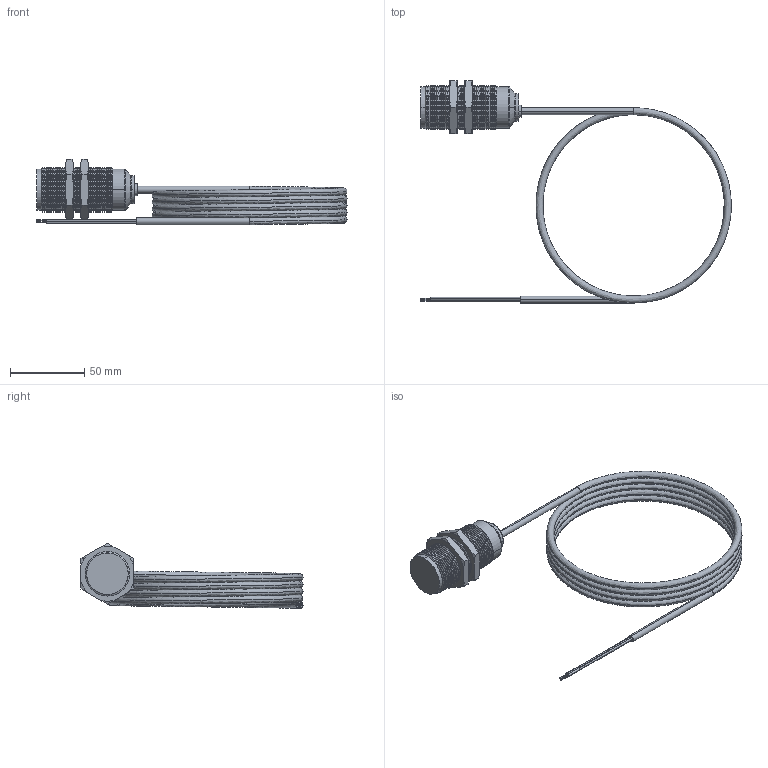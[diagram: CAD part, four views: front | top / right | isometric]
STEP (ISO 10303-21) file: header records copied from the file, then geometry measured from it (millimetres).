
FILE_DESCRIPTION (( 'STEP AP203' ), '1' );
FILE_NAME ('90-XXXX-053.STEP', '2015-08-31T03:43:48', ( 'Sam' ), ( 'Spade' ), 'SwSTEP 2.0', 'SolidWorks 2002296', '' );
FILE_SCHEMA (( 'CONFIG_CONTROL_DESIGN' ));
Length unit declared in the file: inch
Products named in the file (15): 90-XXXX-053; Imported311; Imported310; Imported319; Imported318; Imported317; Imported313; Imported306; Imported307; Imported309; Imported308; Imported312; Imported316; Imported315; Imported314
Assembly tree (14 placements, depth 2):
  90-XXXX-053
    Imported311
    Imported307
    Imported310
    Imported306
    Imported312
    Imported313
    Imported314
    Imported309
    Imported317
    Imported308
    Imported318
    Imported315
    Imported319
    Imported316
Bounding box: 209.32 x 149.71 x 44.19 mm (x, y, z)
Volume: 83641.5 mm3; surface area: 47530.1 mm2
Topology: 14 solids, 14 shells, 444 faces, 1047 edges, 627 vertices
Faces by surface type: cone 181, cylinder 114, bspline 79, plane 70
Entity records: 20552 total; most frequent: CARTESIAN_POINT 9004, DIRECTION 2140, ORIENTED_EDGE 2082, EDGE_CURVE 1041, AXIS2_PLACEMENT_3D 883, VERTEX_POINT 627, CIRCLE 501, EDGE_LOOP 458
